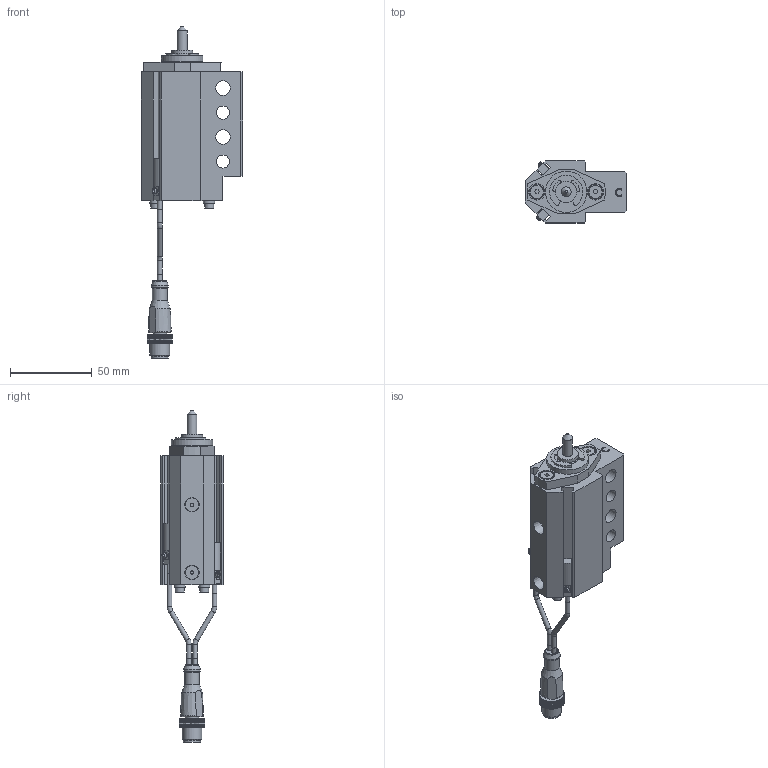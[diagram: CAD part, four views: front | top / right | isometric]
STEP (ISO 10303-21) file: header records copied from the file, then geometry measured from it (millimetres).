
FILE_DESCRIPTION(/* description */ ('NAAMS FLOATING MICRO PIN'),/* implementation_level */ '2;1');
FILE_NAME(/* name */ 'C:\Vault Workspace\CAD\Welker\Shot Pin\NMP\NMP060012CANL3.stp',/* time_stamp */ '2021-01-27T08:27:47-05:00',/* author */ ('KLabrecque'),/* organization */ (''),/* preprocessor_version */ 'ST-DEVELOPER v18.1',/* originating_system */ 'Autodesk Inventor 2020',/* authorisation */ '');
FILE_SCHEMA (('AUTOMOTIVE_DESIGN { 1 0 10303 214 3 1 1 }'));
Length unit declared in the file: millimetre
Products named in the file (16): NMPL01; NMP L3 SWITCH; L3 Connector; L3 Sensor 1; L3 Sensor 2; L3 Sensor cable; L3 Sensor cable 2; M3X0.5-8 SHCS; NL3; NMPE06; NMPE03; NMPE05-DIA-LENGTH; 985432A218; NMPE01C-PORT; RMPE02; M5X5 SHOULDER
Assembly tree (22 placements, depth 3):
  NMPL01
    NMP L3 SWITCH
      L3 Connector
      L3 Sensor 1
      L3 Sensor 2
      L3 Sensor cable
      L3 Sensor cable 2
    M3X0.5-8 SHCS  x4
    NL3  x4
    NMPE06
    NMPE03
    NMPE05-DIA-LENGTH
    985432A218
    NMPE01C-PORT
    RMPE02
    M5X5 SHOULDER  x2
Bounding box: 62 x 38.1 x 203.54 mm (x, y, z)
Volume: 109759.7 mm3; surface area: 45112.3 mm2
Topology: 21 solids, 21 shells, 752 faces, 2040 edges, 1364 vertices
Faces by surface type: plane 545, cylinder 144, cone 31, bspline 18, torus 11, sphere 3
Full cylindrical faces by diameter (mm): 2 x2, 2.459 x4, 2.9 x10, 3 x5, 3.242 x2, 3.4 x4, 4 x2, 5 x6, 5.5 x4, 6 x1, 7 x4, 8 x2, 8.3 x2, 9 x5, 10 x3, 10.4 x1, 10.5 x1, 12 x1, 13 x3, 16 x2, 19.05 x3, 21 x1, 22.5 x1, 23.672 x1, 24 x1, 25.4 x1, 25.5 x1, 26.5 x1, 28.677 x1, 29.21 x1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
Entity records: 23061 total; most frequent: CARTESIAN_POINT 4367, ORIENTED_EDGE 3778, DIRECTION 3695, EDGE_CURVE 1889, LINE 1377, VECTOR 1377, VERTEX_POINT 1269, AXIS2_PLACEMENT_3D 1159
